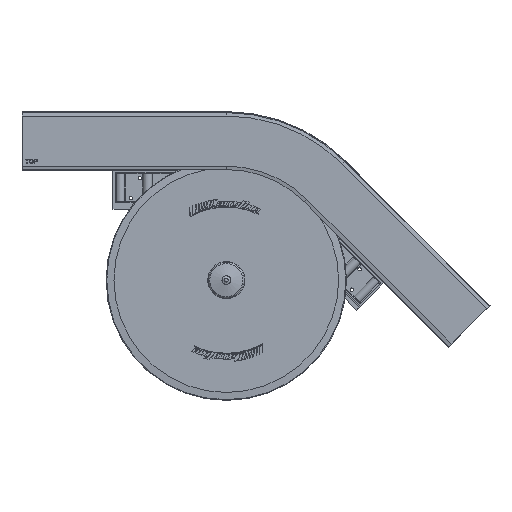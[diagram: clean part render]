
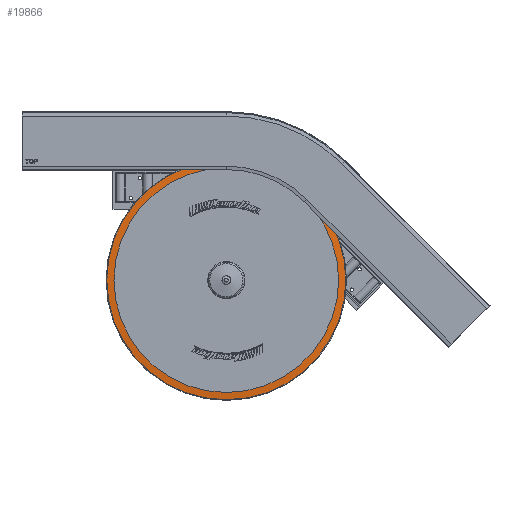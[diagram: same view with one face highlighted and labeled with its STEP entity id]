
A CAD part, top view. The second image highlights one B-rep face of the part: STEP entity #19866.
In plain terms, the highlighted conical face has half-angle 85 degrees and reference radius 174.087 mm.
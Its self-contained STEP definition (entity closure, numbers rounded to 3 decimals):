
#15944=CARTESIAN_POINT('',(-29.272,-200.669,0.0));
#15945=VERTEX_POINT('',#15944);
#15946=CARTESIAN_POINT('',(-29.272,-37.099,0.0));
#15947=DIRECTION('',(1.0,0.0,0.0));
#15948=DIRECTION('',(0.0,-1.0,0.0));
#15949=AXIS2_PLACEMENT_3D('',#15946,#15947,#15948);
#15950=CIRCLE('',#15949,163.57);
#15951=EDGE_CURVE('',#15945,#15945,#15950,.T.);
#19823=CARTESIAN_POINT('',(-30.192,-211.186,0.0));
#19824=VERTEX_POINT('',#19823);
#19825=CARTESIAN_POINT('',(-30.192,-37.099,0.0));
#19826=DIRECTION('',(1.0,0.0,0.0));
#19827=DIRECTION('',(0.0,1.0,0.0));
#19828=AXIS2_PLACEMENT_3D('',#19825,#19826,#19827);
#19829=CIRCLE('',#19828,174.087);
#19830=EDGE_CURVE('',#19824,#19824,#19829,.T.);
#19855=CARTESIAN_POINT('',(-30.192,-37.099,0.0));
#19856=DIRECTION('',(-1.0,0.0,0.0));
#19857=DIRECTION('',(0.0,-1.0,0.0));
#19858=AXIS2_PLACEMENT_3D('',#19855,#19856,#19857);
#19859=CONICAL_SURFACE('',#19858,174.087,85.);
#19860=ORIENTED_EDGE('',*,*,#15951,.F.);
#19861=EDGE_LOOP('',(#19860));
#19862=FACE_OUTER_BOUND('',#19861,.T.);
#19863=ORIENTED_EDGE('',*,*,#19830,.T.);
#19864=EDGE_LOOP('',(#19863));
#19865=FACE_BOUND('',#19864,.T.);
#19866=ADVANCED_FACE('',(#19862,#19865),#19859,.T.);
